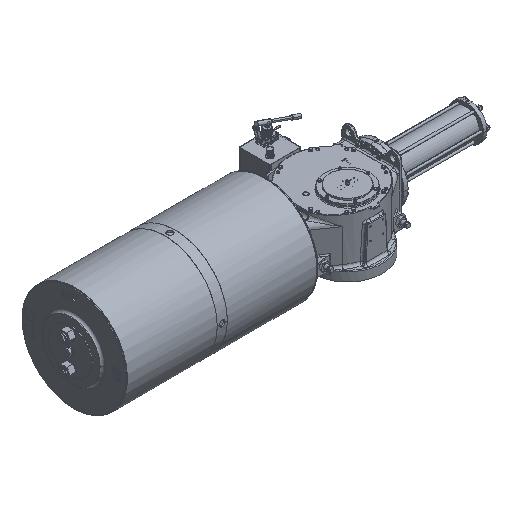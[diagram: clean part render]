
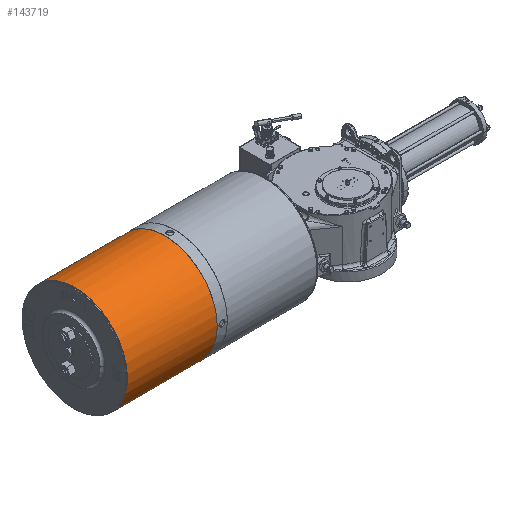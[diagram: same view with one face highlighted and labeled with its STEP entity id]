
A CAD part, isometric view. The second image highlights one B-rep face of the part: STEP entity #143719.
In plain terms, the highlighted cylindrical face has radius 419 mm (diameter 838 mm), a partial arc.
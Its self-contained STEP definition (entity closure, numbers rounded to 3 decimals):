
#69 = AXIS2_PLACEMENT_3D ( 'NONE', #128212, #33273, #137615 ) ;
#13263 = EDGE_CURVE ( 'NONE', #56537, #93642, #121839, .T. ) ;
#23470 = CARTESIAN_POINT ( 'NONE',  ( -1981., -84.924, -136.403 ) ) ;
#25537 = ORIENTED_EDGE ( 'NONE', *, *, #52670, .F. ) ;
#27350 = DIRECTION ( 'NONE',  ( 0., 0.687, 0.726 ) ) ;
#30745 = LINE ( 'NONE', #124889, #152496 ) ;
#31526 = CARTESIAN_POINT ( 'NONE',  ( -1981., 490.924, 472.403 ) ) ;
#33273 = DIRECTION ( 'NONE',  ( 1., 0., 0. ) ) ;
#33798 = EDGE_LOOP ( 'NONE', ( #73632, #112308, #95873, #25537 ) ) ;
#35122 = FACE_OUTER_BOUND ( 'NONE', #33798, .T. ) ;
#44428 = CARTESIAN_POINT ( 'NONE',  ( -1261., 490.924, 472.403 ) ) ;
#52670 = EDGE_CURVE ( 'NONE', #77022, #93642, #30745, .T. ) ;
#53874 = CIRCLE ( 'NONE', #150883, 419. ) ;
#56537 = VERTEX_POINT ( 'NONE', #31526 ) ;
#59243 = DIRECTION ( 'NONE',  ( 0., -0.687, -0.726 ) ) ;
#65772 = DIRECTION ( 'NONE',  ( -1., 0., 0. ) ) ;
#65901 = CARTESIAN_POINT ( 'NONE',  ( -1261., 490.924, 472.403 ) ) ;
#73632 = ORIENTED_EDGE ( 'NONE', *, *, #150034, .F. ) ;
#77022 = VERTEX_POINT ( 'NONE', #142454 ) ;
#77871 = DIRECTION ( 'NONE',  ( 1., 0., 0. ) ) ;
#82584 = DIRECTION ( 'NONE',  ( -1., 0., 0. ) ) ;
#85756 = VERTEX_POINT ( 'NONE', #65901 ) ;
#88760 = AXIS2_PLACEMENT_3D ( 'NONE', #105902, #82584, #59243 ) ;
#93642 = VERTEX_POINT ( 'NONE', #23470 ) ;
#95873 = ORIENTED_EDGE ( 'NONE', *, *, #13263, .T. ) ;
#105902 = CARTESIAN_POINT ( 'NONE',  ( -1261., 203., 168. ) ) ;
#112308 = ORIENTED_EDGE ( 'NONE', *, *, #132669, .T. ) ;
#113659 = LINE ( 'NONE', #44428, #119175 ) ;
#119175 = VECTOR ( 'NONE', #139348, 1000. ) ;
#121839 = CIRCLE ( 'NONE', #69, 419. ) ;
#124889 = CARTESIAN_POINT ( 'NONE',  ( -1261., -84.924, -136.403 ) ) ;
#128212 = CARTESIAN_POINT ( 'NONE',  ( -1981., 203., 168. ) ) ;
#129302 = CYLINDRICAL_SURFACE ( 'NONE', #88760, 419. ) ;
#132669 = EDGE_CURVE ( 'NONE', #85756, #56537, #113659, .T. ) ;
#134737 = CARTESIAN_POINT ( 'NONE',  ( -1261., 203., 168. ) ) ;
#137615 = DIRECTION ( 'NONE',  ( 0., 0.687, 0.726 ) ) ;
#139348 = DIRECTION ( 'NONE',  ( -1., 0., 0. ) ) ;
#142454 = CARTESIAN_POINT ( 'NONE',  ( -1261., -84.924, -136.403 ) ) ;
#143719 = ADVANCED_FACE ( 'NONE', ( #35122 ), #129302, .T. ) ;
#150034 = EDGE_CURVE ( 'NONE', #85756, #77022, #53874, .T. ) ;
#150883 = AXIS2_PLACEMENT_3D ( 'NONE', #134737, #77871, #27350 ) ;
#152496 = VECTOR ( 'NONE', #65772, 1000. ) ;
